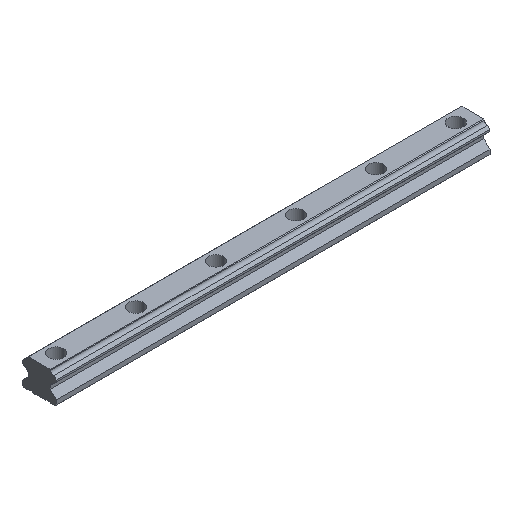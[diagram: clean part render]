
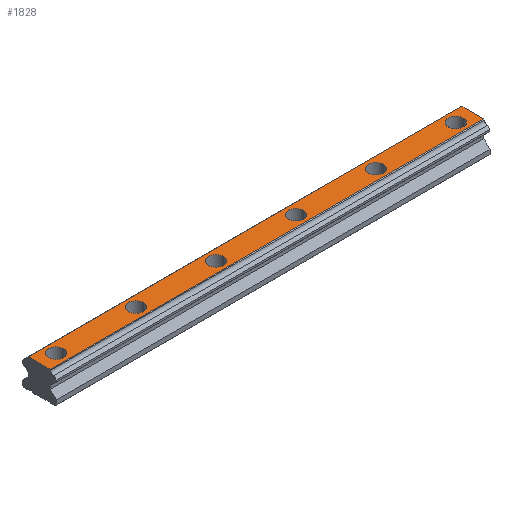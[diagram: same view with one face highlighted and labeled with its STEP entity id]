
A CAD part, isometric view. The second image highlights one B-rep face of the part: STEP entity #1828.
In plain terms, the highlighted planar face has unit normal (0, 0, 1).
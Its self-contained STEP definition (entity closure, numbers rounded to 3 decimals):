
#1403=CARTESIAN_POINT('POINT97',(547.5,-14.356,
   38.));
#1404=VERTEX_POINT('VERTEX97',#1403);
#1411=CARTESIAN_POINT('POINT98',(-22.5,-14.356,
   38.));
#1412=VERTEX_POINT('VERTEX98',#1411);
#1413=CARTESIAN_POINT('POS163',(-22.5,-14.356,
   38.));
#1414=DIRECTION('DIR229',(1.,0.,0.));
#1415=VECTOR('VEC97',#1414,1.);
#1416=LINE('STRAIGHT97',#1413,#1415);
#1417=EDGE_CURVE('EDGE139',#1412,#1404,#1416,.T.);
#1451=CARTESIAN_POINT('POINT99',(-22.5,14.361,
   38.));
#1452=VERTEX_POINT('VERTEX99',#1451);
#1453=CARTESIAN_POINT('POS166',(-22.5,14.361,
   38.));
#1454=DIRECTION('DIR233',(0.,-1.,0.));
#1455=VECTOR('VEC99',#1454,1.);
#1456=LINE('STRAIGHT99',#1453,#1455);
#1457=EDGE_CURVE('EDGE141',#1452,#1412,#1456,.T.);
#1487=CARTESIAN_POINT('POINT100',(547.5,14.361,
   38.));
#1488=VERTEX_POINT('VERTEX100',#1487);
#1497=CARTESIAN_POINT('POS170',(-22.5,14.361,
   38.));
#1498=DIRECTION('DIR238',(1.,0.,0.));
#1499=VECTOR('VEC102',#1498,1.);
#1500=LINE('STRAIGHT102',#1497,#1499);
#1501=EDGE_CURVE('EDGE144',#1452,#1488,#1500,.T.);
#1528=CARTESIAN_POINT('POS172',(547.5,14.361,
   38.));
#1529=DIRECTION('DIR241',(0.,1.,0.));
#1530=VECTOR('VEC103',#1529,1.);
#1531=LINE('STRAIGHT103',#1528,#1530);
#1532=EDGE_CURVE('EDGE145',#1404,#1488,#1531,.T.);
#1557=CARTESIAN_POINT('POINT101',(115.,0.,
   38.));
#1558=VERTEX_POINT('VERTEX101',#1557);
#1566=CARTESIAN_POINT('POINT102',(95.,0.,
   38.));
#1567=VERTEX_POINT('VERTEX102',#1566);
#1574=CARTESIAN_POINT('POS176',(105.,0.,38.
   ));
#1575=DIRECTION('DIR246',(0.,0.,-1.));
#1576=DIRECTION('DIR247',(1.,0.,0.));
#1577=AXIS2_PLACEMENT_3D('AXIS71',#1574,#1575,#1576);
#1578=CIRCLE('ELLIPSE26',#1577,10.);
#1579=EDGE_CURVE('EDGE148',#1558,#1567,#1578,.T.);
#1590=EDGE_CURVE('EDGE149',#1567,#1558,#1578,.T.);
#1597=CARTESIAN_POINT('POINT103',(220.,0.,
   38.));
#1598=VERTEX_POINT('VERTEX103',#1597);
#1606=CARTESIAN_POINT('POINT104',(200.,0.,
   38.));
#1607=VERTEX_POINT('VERTEX104',#1606);
#1614=CARTESIAN_POINT('POS180',(210.,0.,38.)
   );
#1615=DIRECTION('DIR252',(0.,0.,-1.));
#1616=DIRECTION('DIR253',(1.,0.,0.));
#1617=AXIS2_PLACEMENT_3D('AXIS73',#1614,#1615,#1616);
#1618=CIRCLE('ELLIPSE27',#1617,10.);
#1619=EDGE_CURVE('EDGE152',#1598,#1607,#1618,.T.);
#1630=EDGE_CURVE('EDGE153',#1607,#1598,#1618,.T.);
#1637=CARTESIAN_POINT('POINT105',(325.,0.,
   38.));
#1638=VERTEX_POINT('VERTEX105',#1637);
#1646=CARTESIAN_POINT('POINT106',(305.,0.,
   38.));
#1647=VERTEX_POINT('VERTEX106',#1646);
#1654=CARTESIAN_POINT('POS184',(315.,0.,38.
   ));
#1655=DIRECTION('DIR258',(0.,0.,-1.));
#1656=DIRECTION('DIR259',(1.,0.,0.));
#1657=AXIS2_PLACEMENT_3D('AXIS75',#1654,#1655,#1656);
#1658=CIRCLE('ELLIPSE28',#1657,10.);
#1659=EDGE_CURVE('EDGE156',#1638,#1647,#1658,.T.);
#1670=EDGE_CURVE('EDGE157',#1647,#1638,#1658,.T.);
#1677=CARTESIAN_POINT('POINT107',(430.,0.,
   38.));
#1678=VERTEX_POINT('VERTEX107',#1677);
#1686=CARTESIAN_POINT('POINT108',(410.,0.,
   38.));
#1687=VERTEX_POINT('VERTEX108',#1686);
#1694=CARTESIAN_POINT('POS188',(420.,0.,38.)
   );
#1695=DIRECTION('DIR264',(0.,0.,-1.));
#1696=DIRECTION('DIR265',(1.,0.,0.));
#1697=AXIS2_PLACEMENT_3D('AXIS77',#1694,#1695,#1696);
#1698=CIRCLE('ELLIPSE29',#1697,10.);
#1699=EDGE_CURVE('EDGE160',#1678,#1687,#1698,.T.);
#1710=EDGE_CURVE('EDGE161',#1687,#1678,#1698,.T.);
#1717=CARTESIAN_POINT('POINT109',(535.,0.,
   38.));
#1718=VERTEX_POINT('VERTEX109',#1717);
#1726=CARTESIAN_POINT('POINT110',(515.,0.,
   38.));
#1727=VERTEX_POINT('VERTEX110',#1726);
#1734=CARTESIAN_POINT('POS192',(525.,0.,38.
   ));
#1735=DIRECTION('DIR270',(0.,0.,-1.));
#1736=DIRECTION('DIR271',(1.,0.,0.));
#1737=AXIS2_PLACEMENT_3D('AXIS79',#1734,#1735,#1736);
#1738=CIRCLE('ELLIPSE30',#1737,10.);
#1739=EDGE_CURVE('EDGE164',#1718,#1727,#1738,.T.);
#1750=EDGE_CURVE('EDGE165',#1727,#1718,#1738,.T.);
#1782=ORIENTED_EDGE('COEDGE319',*,*,#1750,.T.);
#1783=ORIENTED_EDGE('COEDGE320',*,*,#1739,.T.);
#1784=EDGE_LOOP('NONE',(#1782,#1783));
#1785=FACE_BOUND('LOOP1',#1784,.T.);
#1786=ORIENTED_EDGE('COEDGE321',*,*,#1710,.T.);
#1787=ORIENTED_EDGE('COEDGE322',*,*,#1699,.T.);
#1788=EDGE_LOOP('NONE',(#1786,#1787));
#1789=FACE_BOUND('LOOP1',#1788,.T.);
#1790=ORIENTED_EDGE('COEDGE323',*,*,#1670,.T.);
#1791=ORIENTED_EDGE('COEDGE324',*,*,#1659,.T.);
#1792=EDGE_LOOP('NONE',(#1790,#1791));
#1793=FACE_BOUND('LOOP1',#1792,.T.);
#1794=ORIENTED_EDGE('COEDGE325',*,*,#1630,.T.);
#1795=ORIENTED_EDGE('COEDGE326',*,*,#1619,.T.);
#1796=EDGE_LOOP('NONE',(#1794,#1795));
#1797=FACE_BOUND('LOOP1',#1796,.T.);
#1798=ORIENTED_EDGE('COEDGE327',*,*,#1590,.T.);
#1799=ORIENTED_EDGE('COEDGE328',*,*,#1579,.T.);
#1800=EDGE_LOOP('NONE',(#1798,#1799));
#1801=FACE_BOUND('LOOP1',#1800,.T.);
#1802=CARTESIAN_POINT('POINT113',(-10.,0.,
   38.));
#1803=VERTEX_POINT('VERTEX113',#1802);
#1804=CARTESIAN_POINT('POINT114',(10.,0.,
   38.));
#1805=VERTEX_POINT('VERTEX114',#1804);
#1806=CARTESIAN_POINT('POS196',(0.,0.,38.)
   );
#1807=DIRECTION('DIR278',(0.,0.,-1.));
#1808=DIRECTION('DIR279',(1.,0.,0.));
#1809=AXIS2_PLACEMENT_3D('AXIS83',#1806,#1807,#1808);
#1810=CIRCLE('ELLIPSE32',#1809,10.);
#1811=EDGE_CURVE('EDGE168',#1803,#1805,#1810,.T.);
#1812=ORIENTED_EDGE('COEDGE329',*,*,#1811,.T.);
#1813=EDGE_CURVE('EDGE169',#1805,#1803,#1810,.T.);
#1814=ORIENTED_EDGE('COEDGE330',*,*,#1813,.T.);
#1815=EDGE_LOOP('NONE',(#1812,#1814));
#1816=FACE_BOUND('LOOP1',#1815,.T.);
#1817=ORIENTED_EDGE('COEDGE331',*,*,#1532,.T.);
#1818=ORIENTED_EDGE('COEDGE332',*,*,#1501,.F.);
#1819=ORIENTED_EDGE('COEDGE333',*,*,#1457,.T.);
#1820=ORIENTED_EDGE('COEDGE334',*,*,#1417,.T.);
#1821=EDGE_LOOP('NONE',(#1817,#1818,#1819,#1820));
#1822=FACE_BOUND('LOOP1',#1821,.T.);
#1823=CARTESIAN_POINT('POS197',(-22.5,-14.356,
   38.));
#1824=DIRECTION('DIR280',(0.,0.,1.));
#1825=DIRECTION('DIR281',(1.,0.,0.));
#1826=AXIS2_PLACEMENT_3D('AXIS84',#1823,#1824,#1825);
#1827=PLANE('PLANE37',#1826);
#1828=ADVANCED_FACE('FACE63',(#1785,#1789,#1793,#1797,#1801,#1816,#1822)
   ,#1827,.T.);
